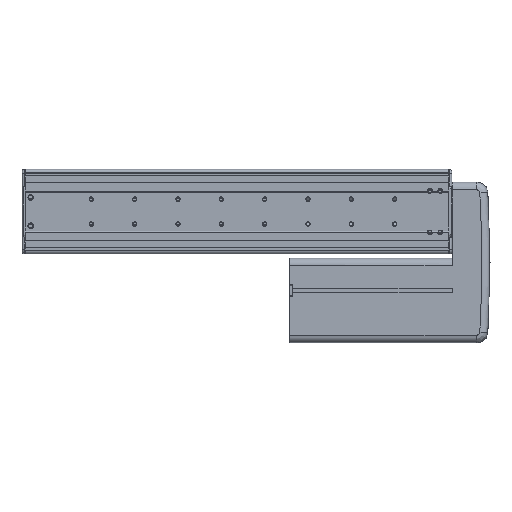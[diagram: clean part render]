
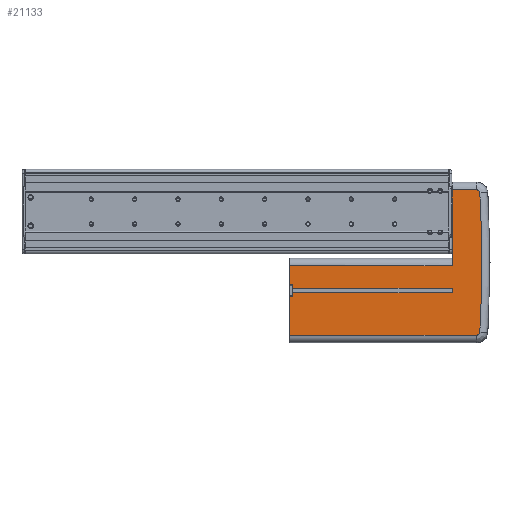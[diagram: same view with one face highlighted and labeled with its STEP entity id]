
A CAD part, front view. The second image highlights one B-rep face of the part: STEP entity #21133.
In plain terms, the highlighted planar face has unit normal (0, -1, 0).
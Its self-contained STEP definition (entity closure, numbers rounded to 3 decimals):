
#806=DIRECTION('',(-1.,0.,0.));
#807=VECTOR('',#806,147.);
#808=CARTESIAN_POINT('',(394.,5.,-75.1));
#809=LINE('',#808,#807);
#818=DIRECTION('',(0.,0.,1.));
#819=VECTOR('',#818,4.2);
#820=CARTESIAN_POINT('',(394.,5.,-75.1));
#821=LINE('',#820,#819);
#822=DIRECTION('',(0.,0.,-1.));
#823=VECTOR('',#822,3.4);
#824=CARTESIAN_POINT('',(247.,5.,-67.5));
#825=LINE('',#824,#823);
#826=DIRECTION('',(0.,0.,-1.));
#827=VECTOR('',#826,17.5);
#828=CARTESIAN_POINT('',(244.,5.,-50.));
#829=LINE('',#828,#827);
#830=DIRECTION('',(1.,0.,0.));
#831=VECTOR('',#830,150.);
#832=CARTESIAN_POINT('',(244.,5.,-50.));
#833=LINE('',#832,#831);
#834=DIRECTION('',(0.,0.,1.));
#835=VECTOR('',#834,70.);
#836=CARTESIAN_POINT('',(394.,5.,-50.));
#837=LINE('',#836,#835);
#838=CARTESIAN_POINT('',(416.587,5.,16.999));
#839=DIRECTION('',(0.,1.,0.));
#840=DIRECTION('',(0.,0.,1.));
#841=AXIS2_PLACEMENT_3D('',#838,#839,#840);
#843=CARTESIAN_POINT('',(-571.,5.,-47.));
#844=DIRECTION('',(0.,1.,0.));
#845=DIRECTION('',(0.998,0.,0.065));
#846=AXIS2_PLACEMENT_3D('',#843,#844,#845);
#848=CARTESIAN_POINT('',(416.587,5.,-110.999));
#849=DIRECTION('',(0.,1.,0.));
#850=DIRECTION('',(0.998,0.,-0.065));
#851=AXIS2_PLACEMENT_3D('',#848,#849,#850);
#853=DIRECTION('',(0.,0.,-1.));
#854=VECTOR('',#853,35.5);
#855=CARTESIAN_POINT('',(244.,5.,-78.5));
#856=LINE('',#855,#854);
#857=DIRECTION('',(0.,0.,-1.));
#858=VECTOR('',#857,3.4);
#859=CARTESIAN_POINT('',(247.,5.,-75.1));
#860=LINE('',#859,#858);
#877=DIRECTION('',(1.,0.,0.));
#878=VECTOR('',#877,147.);
#879=CARTESIAN_POINT('',(247.,5.,-70.9));
#880=LINE('',#879,#878);
#13618=DIRECTION('',(1.,0.,0.));
#13619=VECTOR('',#13618,150.);
#13620=CARTESIAN_POINT('',(244.,5.,-114.));
#13621=LINE('',#13620,#13619);
#13622=DIRECTION('',(1.,0.,0.));
#13623=VECTOR('',#13622,22.587);
#13624=CARTESIAN_POINT('',(394.,5.,-114.));
#13625=LINE('',#13624,#13623);
#14045=DIRECTION('',(-1.,0.,0.));
#14046=VECTOR('',#14045,22.587);
#14047=CARTESIAN_POINT('',(416.587,5.,20.));
#14048=LINE('',#14047,#14046);
#14705=DIRECTION('',(1.,0.,0.));
#14706=VECTOR('',#14705,3.);
#14707=CARTESIAN_POINT('',(244.,5.,-67.5));
#14708=LINE('',#14707,#14706);
#14729=DIRECTION('',(-1.,0.,0.));
#14730=VECTOR('',#14729,3.);
#14731=CARTESIAN_POINT('',(247.,5.,-78.5));
#14732=LINE('',#14731,#14730);
#15981=CARTESIAN_POINT('',(244.,5.,-114.));
#15982=VERTEX_POINT('',#15981);
#15983=CARTESIAN_POINT('',(244.,5.,-78.5));
#15984=VERTEX_POINT('',#15983);
#15993=CARTESIAN_POINT('',(244.,5.,-67.5));
#15994=VERTEX_POINT('',#15993);
#15995=CARTESIAN_POINT('',(244.,5.,-50.));
#15996=VERTEX_POINT('',#15995);
#16142=CARTESIAN_POINT('',(394.,5.,20.));
#16144=VERTEX_POINT('',#16142);
#16157=CARTESIAN_POINT('',(416.587,5.,
-114.));
#16158=VERTEX_POINT('',#16157);
#16159=CARTESIAN_POINT('',(419.582,5.,
-111.194));
#16160=VERTEX_POINT('',#16159);
#16161=CARTESIAN_POINT('',(419.582,5.,17.194));
#16162=VERTEX_POINT('',#16161);
#16163=CARTESIAN_POINT('',(416.587,5.,20.));
#16164=VERTEX_POINT('',#16163);
#16210=CARTESIAN_POINT('',(247.,5.,-75.1));
#16212=VERTEX_POINT('',#16210);
#16224=CARTESIAN_POINT('',(247.,5.,-70.9));
#16225=VERTEX_POINT('',#16224);
#19570=CARTESIAN_POINT('',(247.,5.,-67.5));
#19572=VERTEX_POINT('',#19570);
#19580=CARTESIAN_POINT('',(247.,5.,-78.5));
#19581=VERTEX_POINT('',#19580);
#19744=CARTESIAN_POINT('',(394.,5.,-75.1));
#19745=VERTEX_POINT('',#19744);
#19746=CARTESIAN_POINT('',(394.,5.,-70.9));
#19747=VERTEX_POINT('',#19746);
#19748=CARTESIAN_POINT('',(394.,5.,-50.));
#19749=VERTEX_POINT('',#19748);
#19756=CARTESIAN_POINT('',(394.,5.,-114.));
#19757=VERTEX_POINT('',#19756);
#21099=CARTESIAN_POINT('',(320.5,5.,-94.55));
#21100=DIRECTION('',(0.,1.,0.));
#21101=DIRECTION('',(0.,0.,-1.));
#21102=AXIS2_PLACEMENT_3D('',#21099,#21100,#21101);
#21103=PLANE('',#21102);
#21104=ORIENTED_EDGE('',*,*,#20769,.T.);
#21106=ORIENTED_EDGE('',*,*,#21105,.F.);
#21107=ORIENTED_EDGE('',*,*,#20630,.F.);
#21109=ORIENTED_EDGE('',*,*,#21108,.F.);
#21110=ORIENTED_EDGE('',*,*,#20383,.F.);
#21112=ORIENTED_EDGE('',*,*,#21111,.T.);
#21113=ORIENTED_EDGE('',*,*,#20990,.T.);
#21115=ORIENTED_EDGE('',*,*,#21114,.F.);
#21117=ORIENTED_EDGE('',*,*,#21116,.T.);
#21119=ORIENTED_EDGE('',*,*,#21118,.T.);
#21121=ORIENTED_EDGE('',*,*,#21120,.T.);
#21123=ORIENTED_EDGE('',*,*,#21122,.F.);
#21125=ORIENTED_EDGE('',*,*,#21124,.F.);
#21126=ORIENTED_EDGE('',*,*,#20395,.F.);
#21128=ORIENTED_EDGE('',*,*,#21127,.F.);
#21129=ORIENTED_EDGE('',*,*,#20646,.F.);
#21130=ORIENTED_EDGE('',*,*,#21089,.F.);
#21131=EDGE_LOOP('',(#21104,#21106,#21107,#21109,#21110,#21112,#21113,#21115,
#21117,#21119,#21121,#21123,#21125,#21126,#21128,#21129,#21130));
#21132=FACE_OUTER_BOUND('',#21131,.F.);
#21133=ADVANCED_FACE('',(#21132),#21103,.F.);
#842=CIRCLE('',#841,3.001);
#847=CIRCLE('',#846,992.66);
#852=CIRCLE('',#851,3.001);
#20383=EDGE_CURVE('',#15996,#15994,#829,.T.);
#20395=EDGE_CURVE('',#15984,#15982,#856,.T.);
#20630=EDGE_CURVE('',#19572,#16225,#825,.T.);
#20646=EDGE_CURVE('',#16212,#19581,#860,.T.);
#20769=EDGE_CURVE('',#19745,#19747,#821,.T.);
#20990=EDGE_CURVE('',#19749,#16144,#837,.T.);
#21089=EDGE_CURVE('',#19745,#16212,#809,.T.);
#21105=EDGE_CURVE('',#16225,#19747,#880,.T.);
#21108=EDGE_CURVE('',#15994,#19572,#14708,.T.);
#21111=EDGE_CURVE('',#15996,#19749,#833,.T.);
#21114=EDGE_CURVE('',#16164,#16144,#14048,.T.);
#21116=EDGE_CURVE('',#16164,#16162,#842,.T.);
#21118=EDGE_CURVE('',#16162,#16160,#847,.T.);
#21120=EDGE_CURVE('',#16160,#16158,#852,.T.);
#21122=EDGE_CURVE('',#19757,#16158,#13625,.T.);
#21124=EDGE_CURVE('',#15982,#19757,#13621,.T.);
#21127=EDGE_CURVE('',#19581,#15984,#14732,.T.);
